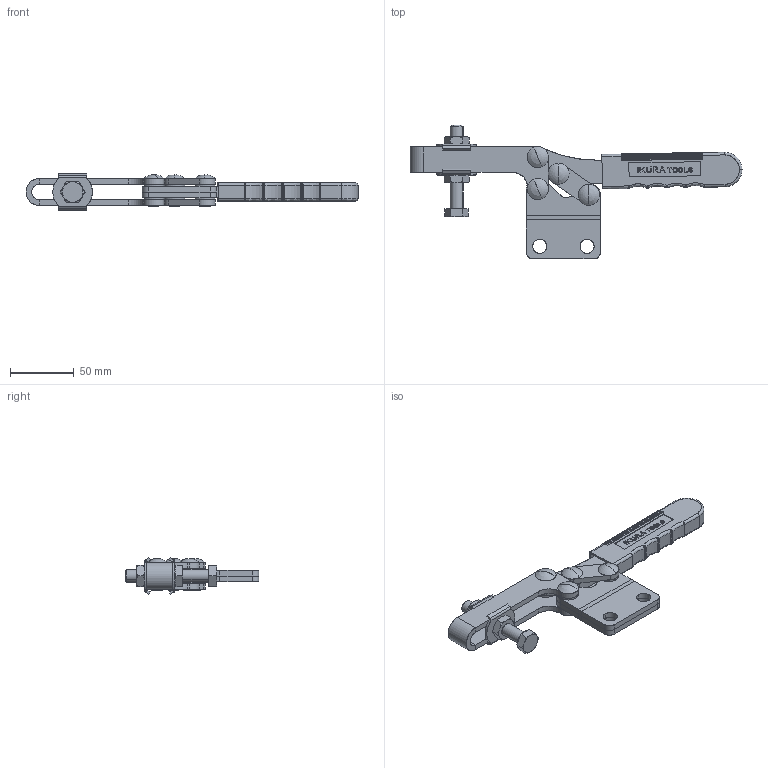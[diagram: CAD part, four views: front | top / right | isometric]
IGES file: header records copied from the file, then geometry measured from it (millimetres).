
Start section: SolidWorks IGES file using analytic representation for surfaces
Global section: file name: \\BARTOP_SV6\share\SOLIDWORKS\工具事業部\坂入用\受け渡し\ISK-38DS0\ISK-38DS0.IGS; native system: SolidWorks 2015; preprocessor: SolidWorks 2015; author: SOLID02; date: 150629.183813; units: millimetre
Bounding box: 259.94 x 104.63 x 28.43 mm (x, y, z)
Surface area: 67531 mm2 (no closed solid volume)
Topology: 0 solids, 0 shells, 1516 faces, 18050 edges, 18022 vertices
Faces by surface type: bspline 1025, revolution 491
